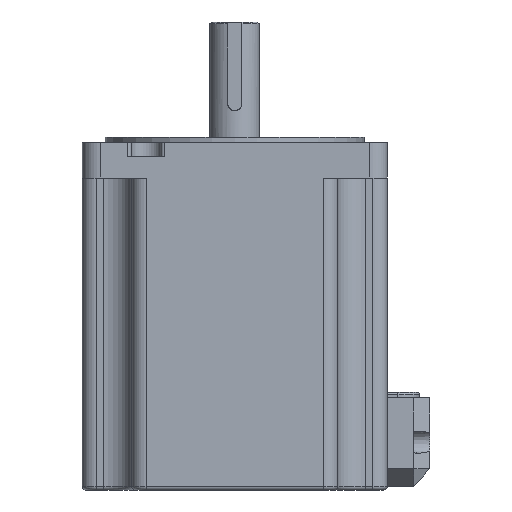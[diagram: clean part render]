
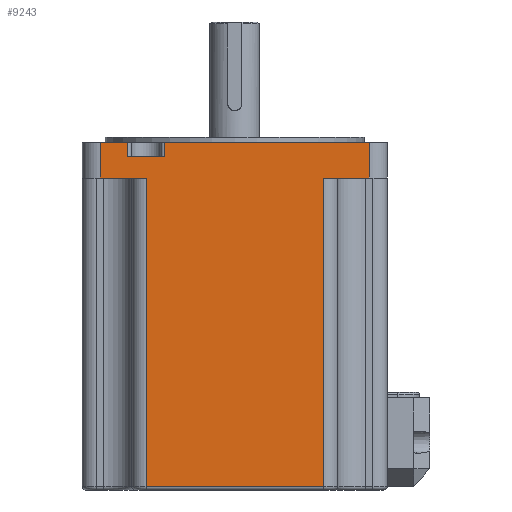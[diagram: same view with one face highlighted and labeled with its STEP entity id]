
A CAD part, front view. The second image highlights one B-rep face of the part: STEP entity #9243.
In plain terms, the highlighted planar face has unit normal (0, -1, 0).
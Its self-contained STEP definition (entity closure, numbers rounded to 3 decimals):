
#1207=DIRECTION('',(0.,0.,1.));
#1208=VECTOR('',#1207,10.);
#1209=CARTESIAN_POINT('',(5.,0.,50.));
#1210=LINE('',#1209,#1208);
#1215=DIRECTION('',(-1.,0.,0.));
#1216=VECTOR('',#1215,7.75);
#1217=CARTESIAN_POINT('',(12.75,0.,60.));
#1218=LINE('',#1217,#1216);
#1219=DIRECTION('',(-1.,0.,0.));
#1220=VECTOR('',#1219,57.75);
#1221=CARTESIAN_POINT('',(81.,0.,60.));
#1222=LINE('',#1221,#1220);
#1227=DIRECTION('',(0.,0.,1.));
#1228=VECTOR('',#1227,87.);
#1229=CARTESIAN_POINT('',(18.,0.,-37.));
#1230=LINE('',#1229,#1228);
#1255=DIRECTION('',(-1.,0.,0.));
#1256=VECTOR('',#1255,13.);
#1257=CARTESIAN_POINT('',(18.,0.,50.));
#1258=LINE('',#1257,#1256);
#1362=DIRECTION('',(-1.,0.,0.));
#1363=VECTOR('',#1362,50.);
#1364=CARTESIAN_POINT('',(68.,0.,-37.));
#1365=LINE('',#1364,#1363);
#1385=DIRECTION('',(0.,0.,-1.));
#1386=VECTOR('',#1385,87.);
#1387=CARTESIAN_POINT('',(68.,0.,50.));
#1388=LINE('',#1387,#1386);
#1416=DIRECTION('',(-1.,0.,0.));
#1417=VECTOR('',#1416,13.);
#1418=CARTESIAN_POINT('',(81.,0.,50.));
#1419=LINE('',#1418,#1417);
#6090=DIRECTION('',(0.,0.,-1.));
#6091=VECTOR('',#6090,10.);
#6092=CARTESIAN_POINT('',(81.,0.,60.));
#6093=LINE('',#6092,#6091);
#6102=DIRECTION('',(0.,0.,-1.));
#6103=VECTOR('',#6102,4.);
#6104=CARTESIAN_POINT('',(12.75,0.,60.));
#6105=LINE('',#6104,#6103);
#6110=DIRECTION('',(1.,0.,0.));
#6111=VECTOR('',#6110,10.5);
#6112=CARTESIAN_POINT('',(12.75,0.,56.));
#6113=LINE('',#6112,#6111);
#6160=DIRECTION('',(0.,0.,1.));
#6161=VECTOR('',#6160,4.);
#6162=CARTESIAN_POINT('',(23.25,0.,56.));
#6163=LINE('',#6162,#6161);
#6570=CARTESIAN_POINT('',(12.75,0.,56.));
#6571=CARTESIAN_POINT('',(23.25,0.,56.));
#6572=VERTEX_POINT('',#6570);
#6573=VERTEX_POINT('',#6571);
#6622=CARTESIAN_POINT('',(5.,0.,60.));
#6623=VERTEX_POINT('',#6622);
#6624=CARTESIAN_POINT('',(12.75,0.,60.));
#6625=VERTEX_POINT('',#6624);
#6634=CARTESIAN_POINT('',(23.25,0.,60.));
#6635=VERTEX_POINT('',#6634);
#6636=CARTESIAN_POINT('',(81.,0.,60.));
#6637=VERTEX_POINT('',#6636);
#6678=CARTESIAN_POINT('',(18.,0.,-37.));
#6679=CARTESIAN_POINT('',(18.,0.,50.));
#6680=VERTEX_POINT('',#6678);
#6681=VERTEX_POINT('',#6679);
#6682=CARTESIAN_POINT('',(68.,0.,-37.));
#6683=VERTEX_POINT('',#6682);
#6684=CARTESIAN_POINT('',(68.,0.,50.));
#6685=VERTEX_POINT('',#6684);
#6686=CARTESIAN_POINT('',(81.,0.,50.));
#6687=VERTEX_POINT('',#6686);
#6688=CARTESIAN_POINT('',(5.,0.,50.));
#6689=VERTEX_POINT('',#6688);
#9215=CARTESIAN_POINT('',(0.,0.,60.));
#9216=DIRECTION('',(0.,1.,0.));
#9217=DIRECTION('',(-1.,0.,0.));
#9218=AXIS2_PLACEMENT_3D('',#9215,#9216,#9217);
#9219=PLANE('',#9218);
#9221=ORIENTED_EDGE('',*,*,#9220,.T.);
#9223=ORIENTED_EDGE('',*,*,#9222,.T.);
#9224=ORIENTED_EDGE('',*,*,#9207,.T.);
#9225=ORIENTED_EDGE('',*,*,#7753,.F.);
#9227=ORIENTED_EDGE('',*,*,#9226,.T.);
#9229=ORIENTED_EDGE('',*,*,#9228,.T.);
#9231=ORIENTED_EDGE('',*,*,#9230,.T.);
#9232=ORIENTED_EDGE('',*,*,#7741,.F.);
#9234=ORIENTED_EDGE('',*,*,#9233,.T.);
#9236=ORIENTED_EDGE('',*,*,#9235,.T.);
#9238=ORIENTED_EDGE('',*,*,#9237,.T.);
#9240=ORIENTED_EDGE('',*,*,#9239,.T.);
#9241=EDGE_LOOP('',(#9221,#9223,#9224,#9225,#9227,#9229,#9231,#9232,#9234,#9236,
#9238,#9240));
#9242=FACE_OUTER_BOUND('',#9241,.F.);
#9243=ADVANCED_FACE('',(#9242),#9219,.F.);
#7741=EDGE_CURVE('',#6637,#6635,#1222,.T.);
#7753=EDGE_CURVE('',#6625,#6623,#1218,.T.);
#9207=EDGE_CURVE('',#6689,#6623,#1210,.T.);
#9220=EDGE_CURVE('',#6680,#6681,#1230,.T.);
#9222=EDGE_CURVE('',#6681,#6689,#1258,.T.);
#9226=EDGE_CURVE('',#6625,#6572,#6105,.T.);
#9228=EDGE_CURVE('',#6572,#6573,#6113,.T.);
#9230=EDGE_CURVE('',#6573,#6635,#6163,.T.);
#9233=EDGE_CURVE('',#6637,#6687,#6093,.T.);
#9235=EDGE_CURVE('',#6687,#6685,#1419,.T.);
#9237=EDGE_CURVE('',#6685,#6683,#1388,.T.);
#9239=EDGE_CURVE('',#6683,#6680,#1365,.T.);
